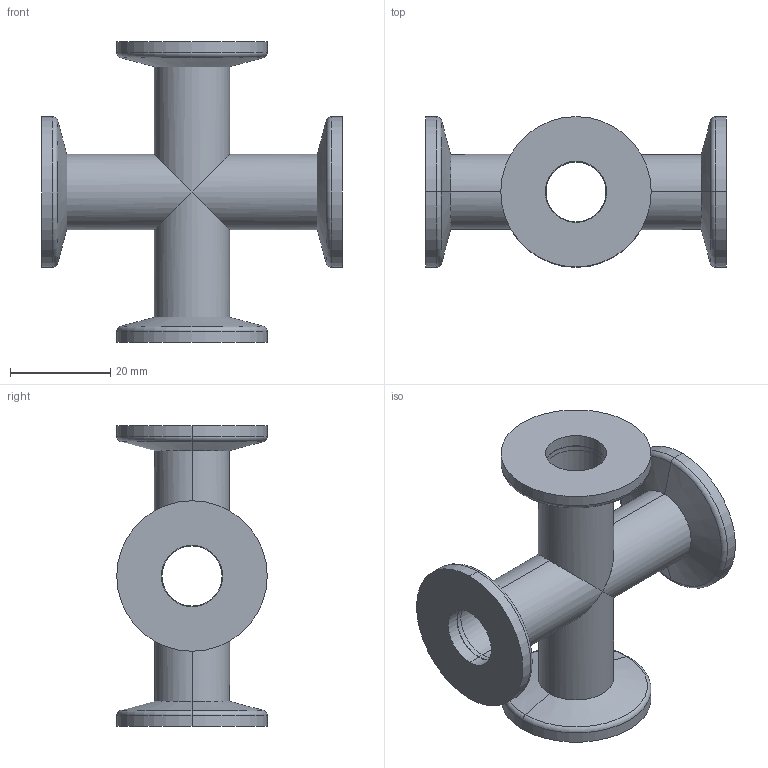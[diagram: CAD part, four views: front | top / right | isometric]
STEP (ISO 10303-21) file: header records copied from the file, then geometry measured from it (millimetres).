
FILE_DESCRIPTION (( 'STEP AP214' ), '1' );
FILE_NAME ('W3KS10.STEP', '2020-08-20T12:20:23', ( '' ), ( '' ), 'SwSTEP 2.0', 'SolidWorks 2020', '' );
FILE_SCHEMA (( 'AUTOMOTIVE_DESIGN' ));
Length unit declared in the file: millimetre
Products named in the file (1): W3KS10
Bounding box: 60 x 30 x 60 mm (x, y, z)
Volume: 14711.7 mm3; surface area: 14817.5 mm2
Topology: 8 solids, 8 shells, 88 faces, 192 edges, 120 vertices
Faces by surface type: cylinder 48, plane 24, torus 8, cone 8
Entity records: 2549 total; most frequent: CARTESIAN_POINT 497, DIRECTION 434, ORIENTED_EDGE 384, EDGE_CURVE 192, AXIS2_PLACEMENT_3D 185, VERTEX_POINT 120, EDGE_LOOP 104, CIRCLE 96
